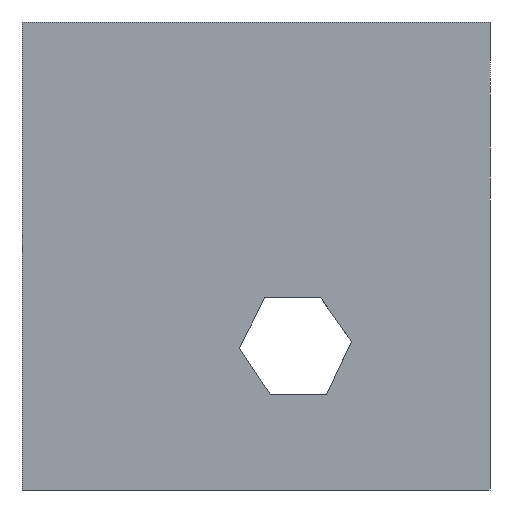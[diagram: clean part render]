
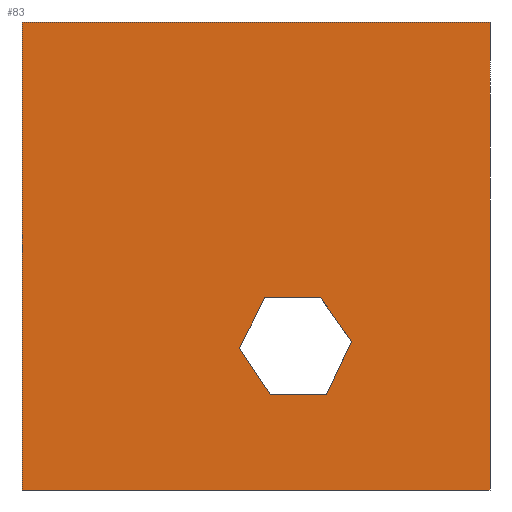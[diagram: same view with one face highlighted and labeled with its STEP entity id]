
A CAD part, left-side view. The second image highlights one B-rep face of the part: STEP entity #83.
In plain terms, the highlighted planar face has unit normal (-1, 0, 0).
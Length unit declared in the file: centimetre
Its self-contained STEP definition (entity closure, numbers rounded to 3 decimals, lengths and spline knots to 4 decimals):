
#33 = CARTESIAN_POINT ( 'NONE',  ( 0., 1000., 1000. ) ) ;
#34 = VERTEX_POINT ( 'NONE', #94 ) ;
#39 = VECTOR ( 'NONE', #403, 100. ) ;
#41 = VERTEX_POINT ( 'NONE', #786 ) ;
#68 = DIRECTION ( 'NONE',  ( 0., 0.551, 0.835 ) ) ;
#71 = CARTESIAN_POINT ( 'NONE',  ( 0., 0., 1000. ) ) ;
#83 = ADVANCED_FACE ( 'NONE', ( #331, #172 ), #641, .F. ) ;
#86 = CARTESIAN_POINT ( 'NONE',  ( 0., 469.3034, 202.996 ) ) ;
#94 = CARTESIAN_POINT ( 'NONE',  ( 0., 469.3034, 202.996 ) ) ;
#103 = VECTOR ( 'NONE', #614, 100. ) ;
#109 = DIRECTION ( 'NONE',  ( 0., -1., 0. ) ) ;
#134 = LINE ( 'NONE', #382, #817 ) ;
#144 = LINE ( 'NONE', #224, #691 ) ;
#166 = CARTESIAN_POINT ( 'NONE',  ( 0., 361.856, 410.5035 ) ) ;
#172 = FACE_OUTER_BOUND ( 'NONE', #462, .T. ) ;
#182 = EDGE_CURVE ( 'NONE', #228, #421, #669, .T. ) ;
#190 = ORIENTED_EDGE ( 'NONE', *, *, #515, .T. ) ;
#210 = ORIENTED_EDGE ( 'NONE', *, *, #668, .T. ) ;
#224 = CARTESIAN_POINT ( 'NONE',  ( 0., 1000., 0. ) ) ;
#228 = VERTEX_POINT ( 'NONE', #345 ) ;
#241 = DIRECTION ( 'NONE',  ( 1., 0., 0. ) ) ;
#246 = VECTOR ( 'NONE', #109, 100. ) ;
#282 = VERTEX_POINT ( 'NONE', #803 ) ;
#292 = DIRECTION ( 'NONE',  ( 0., 1., 0. ) ) ;
#318 = VECTOR ( 'NONE', #325, 100. ) ;
#325 = DIRECTION ( 'NONE',  ( 0., 0., -1. ) ) ;
#331 = FACE_BOUND ( 'NONE', #650, .T. ) ;
#334 = CARTESIAN_POINT ( 'NONE',  ( 0., 481.6605, 410.5035 ) ) ;
#335 = VECTOR ( 'NONE', #992, 100. ) ;
#345 = CARTESIAN_POINT ( 'NONE',  ( 0., 1000., 1000. ) ) ;
#363 = VERTEX_POINT ( 'NONE', #334 ) ;
#367 = CARTESIAN_POINT ( 'NONE',  ( 0., 0., 1000. ) ) ;
#368 = DIRECTION ( 'NONE',  ( 0., -0.448, 0.894 ) ) ;
#369 = AXIS2_PLACEMENT_3D ( 'NONE', #399, #241, #706 ) ;
#382 = CARTESIAN_POINT ( 'NONE',  ( 0., 481.6605, 410.5035 ) ) ;
#399 = CARTESIAN_POINT ( 'NONE',  ( 0., 1000., 1000. ) ) ;
#403 = DIRECTION ( 'NONE',  ( 0., -0.579, -0.815 ) ) ;
#421 = VERTEX_POINT ( 'NONE', #367 ) ;
#428 = ORIENTED_EDGE ( 'NONE', *, *, #900, .T. ) ;
#441 = LINE ( 'NONE', #745, #908 ) ;
#442 = CARTESIAN_POINT ( 'NONE',  ( 0., 295.7751, 317.4513 ) ) ;
#448 = CARTESIAN_POINT ( 'NONE',  ( 0., 535.3842, 303.1825 ) ) ;
#460 = CARTESIAN_POINT ( 'NONE',  ( 0., 535.3842, 303.1825 ) ) ;
#462 = EDGE_LOOP ( 'NONE', ( #882, #546, #711, #973 ) ) ;
#466 = LINE ( 'NONE', #71, #103 ) ;
#480 = VECTOR ( 'NONE', #68, 100. ) ;
#506 = VERTEX_POINT ( 'NONE', #988 ) ;
#515 = EDGE_CURVE ( 'NONE', #506, #34, #441, .T. ) ;
#531 = LINE ( 'NONE', #442, #335 ) ;
#534 = CARTESIAN_POINT ( 'NONE',  ( 0., 1000., 0. ) ) ;
#546 = ORIENTED_EDGE ( 'NONE', *, *, #576, .F. ) ;
#576 = EDGE_CURVE ( 'NONE', #421, #41, #466, .T. ) ;
#581 = ORIENTED_EDGE ( 'NONE', *, *, #825, .T. ) ;
#590 = EDGE_CURVE ( 'NONE', #698, #41, #144, .T. ) ;
#610 = DIRECTION ( 'NONE',  ( 0., -1., 0. ) ) ;
#611 = LINE ( 'NONE', #620, #39 ) ;
#614 = DIRECTION ( 'NONE',  ( 0., 0., -1. ) ) ;
#620 = CARTESIAN_POINT ( 'NONE',  ( 0., 361.856, 410.5035 ) ) ;
#641 = PLANE ( 'NONE',  #369 ) ;
#650 = EDGE_LOOP ( 'NONE', ( #581, #190, #210, #428, #990, #956 ) ) ;
#666 = VERTEX_POINT ( 'NONE', #166 ) ;
#668 = EDGE_CURVE ( 'NONE', #34, #708, #840, .T. ) ;
#669 = LINE ( 'NONE', #33, #246 ) ;
#681 = EDGE_CURVE ( 'NONE', #666, #282, #611, .T. ) ;
#691 = VECTOR ( 'NONE', #610, 100. ) ;
#698 = VERTEX_POINT ( 'NONE', #534 ) ;
#706 = DIRECTION ( 'NONE',  ( 0., 0., -1. ) ) ;
#708 = VERTEX_POINT ( 'NONE', #460 ) ;
#711 = ORIENTED_EDGE ( 'NONE', *, *, #182, .F. ) ;
#745 = CARTESIAN_POINT ( 'NONE',  ( 0., 349.4988, 202.996 ) ) ;
#779 = LINE ( 'NONE', #921, #318 ) ;
#786 = CARTESIAN_POINT ( 'NONE',  ( 0., 0., 0. ) ) ;
#803 = CARTESIAN_POINT ( 'NONE',  ( 0., 295.7751, 317.4513 ) ) ;
#817 = VECTOR ( 'NONE', #901, 100. ) ;
#823 = LINE ( 'NONE', #448, #891 ) ;
#825 = EDGE_CURVE ( 'NONE', #282, #506, #531, .T. ) ;
#840 = LINE ( 'NONE', #86, #480 ) ;
#877 = EDGE_CURVE ( 'NONE', #363, #666, #134, .T. ) ;
#882 = ORIENTED_EDGE ( 'NONE', *, *, #590, .T. ) ;
#891 = VECTOR ( 'NONE', #368, 100. ) ;
#900 = EDGE_CURVE ( 'NONE', #708, #363, #823, .T. ) ;
#901 = DIRECTION ( 'NONE',  ( 0., -1., 0. ) ) ;
#908 = VECTOR ( 'NONE', #292, 100. ) ;
#921 = CARTESIAN_POINT ( 'NONE',  ( 0., 1000., 1000. ) ) ;
#956 = ORIENTED_EDGE ( 'NONE', *, *, #681, .T. ) ;
#973 = ORIENTED_EDGE ( 'NONE', *, *, #993, .T. ) ;
#988 = CARTESIAN_POINT ( 'NONE',  ( 0., 349.4988, 202.996 ) ) ;
#990 = ORIENTED_EDGE ( 'NONE', *, *, #877, .T. ) ;
#992 = DIRECTION ( 'NONE',  ( 0., 0.425, -0.905 ) ) ;
#993 = EDGE_CURVE ( 'NONE', #228, #698, #779, .T. ) ;
